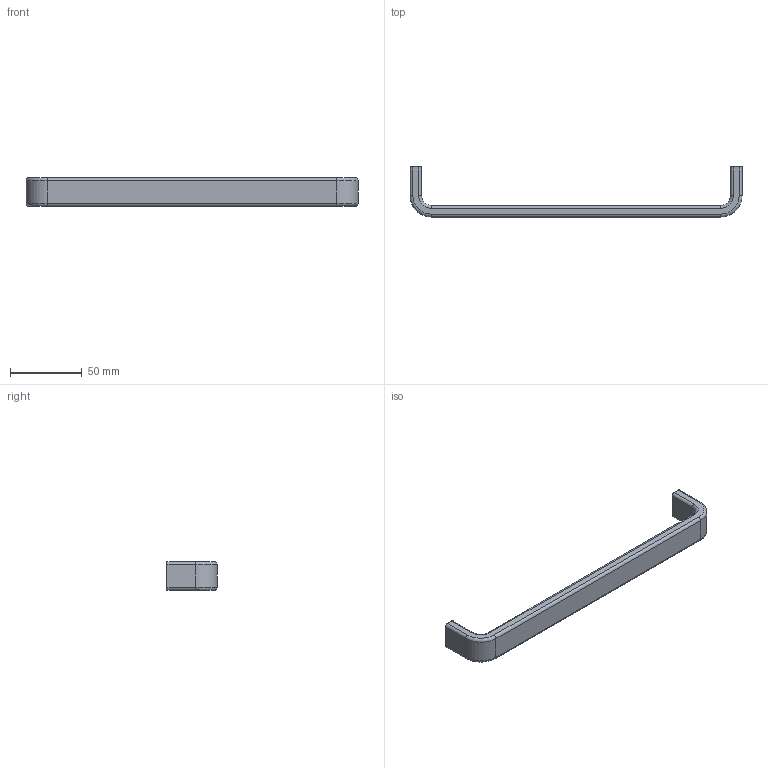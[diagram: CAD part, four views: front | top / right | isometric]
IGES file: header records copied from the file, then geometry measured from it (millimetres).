
Start section: Data from Parasolid IGES Translator 15.0.47, Copyright(c) 2006 Siemens P LM Software. All Rights Reserved.
Global section: file name:  115150.igs; native system:  By UGS Corp.; preprocessor: XPlus GENERIC/IGES 3.0; author: Noname; organization: Noname; date: 20140122.160109; units: millimetre
Bounding box: 232 x 35 x 20 mm (x, y, z)
Surface area: 15164.9 mm2 (no closed solid volume)
Topology: 0 solids, 0 shells, 38 faces, 172 edges, 170 vertices
Faces by surface type: revolution 26, extrusion 12
